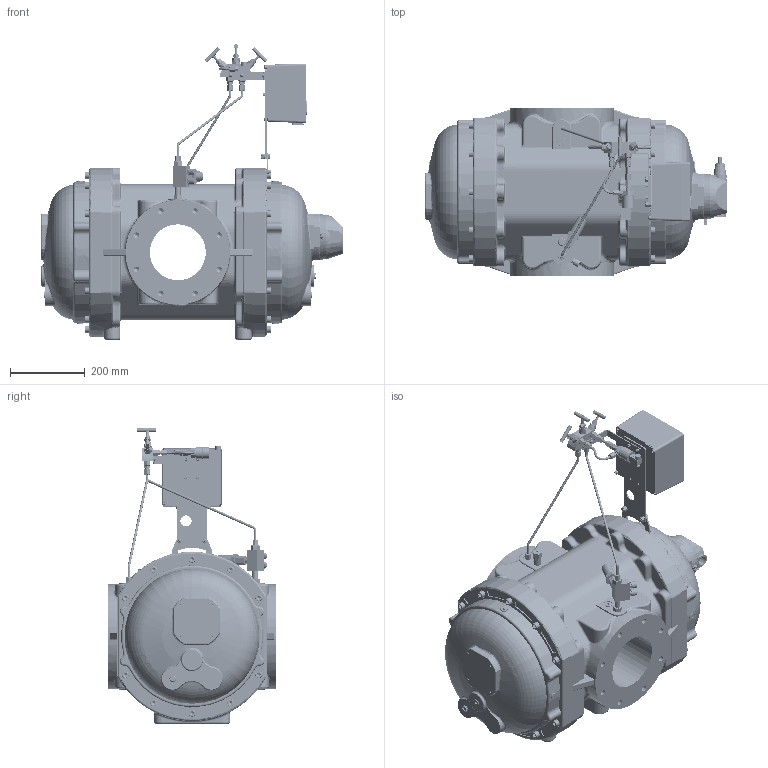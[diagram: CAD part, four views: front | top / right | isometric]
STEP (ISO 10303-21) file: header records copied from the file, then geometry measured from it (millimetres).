
FILE_DESCRIPTION(('STEP AP203'), '1');
FILE_NAME('楥-2230-G650', '', ('UNSPECIFIED'), ('UNSPECIFIED'), 'C3D Converter', 'C3D Toolkit', '');
FILE_SCHEMA(('CONFIG_CONTROL_DESIGN'));
Length unit declared in the file: millimetre
Bounding box: 812 x 450 x 793.5 mm (x, y, z)
Volume: 17044928.2 mm3; surface area: 2459808.4 mm2
Topology: 41 solids, 45 shells, 11626 faces, 31832 edges, 21115 vertices
Faces by surface type: plane 5530, extrusion 2990, cylinder 2094, torus 350, cone 343, bspline 304, sphere 15
Full cylindrical faces by diameter (mm): 1 x23, 1.5 x1, 2 x11, 2.2 x1, 2.5 x4, 2.791 x1, 3 x17, 3.3 x4, 3.5 x4, 4 x34, 4.4 x1, 4.5 x8, 4.917 x4, 5 x5, 5.4 x1, 5.5 x5, 6 x20, 6.2 x7, 6.381 x1, 6.4 x2, 6.5 x11, 7 x19, 7.4 x4, 7.5 x7, 8 x5, 8.466 x1, 8.5 x9, 8.77 x4, 9.4 x9, 9.526 x2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
Entity records: 559546 total; most frequent: CARTESIAN_POINT 190270, ORIENTED_EDGE 60369, DIRECTION 46708, EDGE_CURVE 30785, VERTEX_POINT 20998, VECTOR 19834, LINE 16844, EDGE_LOOP 13592
